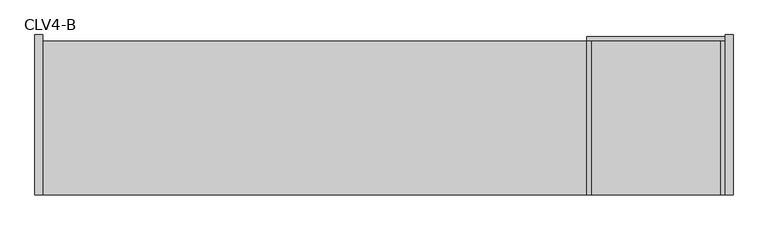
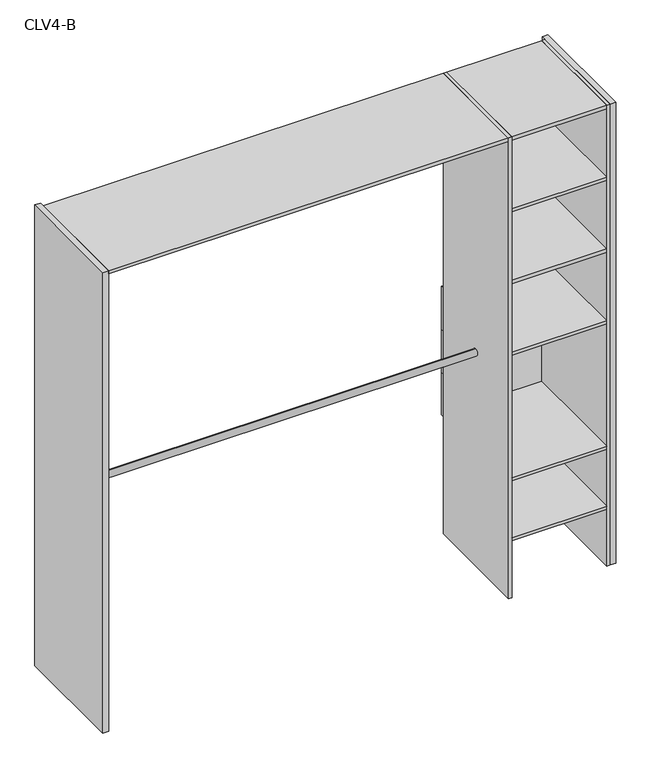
"""IFC4 building model written with IfcOpenShell, lengths in millimetres: furniture geometry, Closet 1estantes-1tubos_2 laterales : CLV4-B."""

from ifc_helpers import new_model, si_unit, point, frame, frame_2d, origin, origin_with_axes, place, context, project, spatial, polyline, circle_curve, trimmed, segment, composite_curve, outline, extrude, source, transform, mapped, element, save


def clv4_b_fcdba09a(model_context):
    return source(origin(), model_context, "Body", "SweptSolid", [
        extrude(outline(polyline([(-1992.7412688, -80.0), (-1992.7412688, -600.0), (-2017.7412688, -600.0), (-2017.7412688, -80.0), (-1992.7412688, -80.0)])), origin_with_axes(), (0.0, 0.0, 1.0), 2150.0),
        extrude(outline(polyline([(250.0, -80.0), (250.0, -600.0), (225.0, -600.0), (225.0, -80.0), (250.0, -80.0)])), origin_with_axes(), (0.0, 0.0, 1.0), 2150.0),
        extrude(outline(polyline([(225.0, -100.0), (225.0, -600.0), (210.0, -600.0), (210.0, -100.0), (225.0, -100.0)])), origin_with_axes(), (0.0, 0.0, 1.0), 2150.0),
        extrude(outline(polyline([(-210.0, -100.0), (-210.0, -600.0), (-225.0, -600.0), (-225.0, -100.0), (-210.0, -100.0)])), origin_with_axes(), (0.0, 0.0, 1.0), 2150.0),
        extrude(outline(polyline([(225.0, -100.0), (-225.0, -100.0), (-225.0, -85.0), (225.0, -85.0), (225.0, -100.0)])), frame((0.0, 0.0, 945.0), z_axis=(0.0, 0.0, 1.0), x_axis=(1.0, 0.0, 0.0)), (0.0, 0.0, 1.0), 200.0),
        extrude(outline(polyline([(225.0, -100.0), (-225.0, -100.0), (-225.0, -85.0), (225.0, -85.0), (225.0, -100.0)])), frame((0.0, 0.0, 745.0), z_axis=(0.0, 0.0, 1.0), x_axis=(1.0, 0.0, 0.0)), (0.0, 0.0, 1.0), 200.0),
        extrude(outline(polyline([(225.0, -100.0), (-225.0, -100.0), (-225.0, -85.0), (225.0, -85.0), (225.0, -100.0)])), frame((0.0, 0.0, 545.0), z_axis=(0.0, 0.0, 1.0), x_axis=(1.0, 0.0, 0.0)), (0.0, 0.0, 1.0), 200.0),
        extrude(outline(polyline([(210.0, -100.0), (210.0, -600.0), (-210.0, -600.0), (-210.0, -100.0), (210.0, -100.0)])), frame((0.0, 0.0, 1130.0), z_axis=(0.0, 0.0, 1.0), x_axis=(1.0, 0.0, 0.0)), (0.0, 0.0, 1.0), 15.0),
        extrude(outline(composite_curve([segment(trimmed(circle_curve(frame_2d((-350.0, 1000.0)), 15.0), [point((-350.0, 1015.0))], [point((-350.0, 985.0))], False, "CARTESIAN"), True, "CONTINUOUS"), segment(trimmed(circle_curve(frame_2d((-350.0, 1000.0)), 15.0), [point((-350.0, 985.0))], [point((-350.0, 1015.0))], False, "CARTESIAN"), True, "CONTINUOUS")], self_intersect=False)), frame((-1992.7412688, 0.0, 0.0), z_axis=(1.0, 0.0, 0.0), x_axis=(0.0, 1.0, 0.0)), (0.0, 0.0, 1.0), 1767.7412688),
        extrude(outline(composite_curve([segment(trimmed(circle_curve(frame_2d((-350.0, 2000.0)), 15.0), [point((-350.0, 2015.0))], [point((-350.0, 1985.0))], False, "CARTESIAN"), True, "CONTINUOUS"), segment(trimmed(circle_curve(frame_2d((-350.0, 2000.0)), 15.0), [point((-350.0, 1985.0))], [point((-350.0, 2015.0))], False, "CARTESIAN"), True, "CONTINUOUS")], self_intersect=False)), frame((-1992.7412688, 0.0, 0.0), z_axis=(1.0, 0.0, 0.0), x_axis=(0.0, 1.0, 0.0)), (0.0, 0.0, 1.0), 1767.7412688),
        extrude(outline(polyline([(210.0, -100.0), (210.0, -600.0), (-210.0, -600.0), (-210.0, -100.0), (210.0, -100.0)])), frame((0.0, 0.0, 265.0), z_axis=(0.0, 0.0, 1.0), x_axis=(1.0, 0.0, 0.0)), (0.0, 0.0, 1.0), 15.0),
        extrude(outline(polyline([(210.0, -100.0), (210.0, -600.0), (-210.0, -600.0), (-210.0, -100.0), (210.0, -100.0)])), frame((0.0, 0.0, 545.0), z_axis=(0.0, 0.0, 1.0), x_axis=(1.0, 0.0, 0.0)), (0.0, 0.0, 1.0), 15.0),
        extrude(outline(polyline([(210.0, -100.0), (210.0, -600.0), (-210.0, -600.0), (-210.0, -100.0), (210.0, -100.0)])), frame((0.0, 0.0, 1465.0), z_axis=(0.0, 0.0, 1.0), x_axis=(1.0, 0.0, 0.0)), (0.0, 0.0, 1.0), 15.0),
        extrude(outline(polyline([(210.0, -100.0), (210.0, -600.0), (-210.0, -600.0), (-210.0, -100.0), (210.0, -100.0)])), frame((0.0, 0.0, 1800.0), z_axis=(0.0, 0.0, 1.0), x_axis=(1.0, 0.0, 0.0)), (0.0, 0.0, 1.0), 15.0),
        extrude(outline(polyline([(-210.0, -100.0), (-210.0, -600.0), (-1992.7412688, -600.0), (-1992.7412688, -100.0), (-210.0, -100.0)])), frame((0.0, 0.0, 2135.0), z_axis=(0.0, 0.0, 1.0), x_axis=(1.0, 0.0, 0.0)), (0.0, 0.0, 1.0), 15.0),
        extrude(outline(polyline([(210.0, -100.0), (210.0, -600.0), (-210.0, -600.0), (-210.0, -100.0), (210.0, -100.0)])), frame((0.0, 0.0, 2135.0), z_axis=(0.0, 0.0, 1.0), x_axis=(1.0, 0.0, 0.0)), (0.0, 0.0, 1.0), 15.0),
    ])


if __name__ == "__main__":
    model = new_model("IFC4")
    model_context = context("Model", 3, world=origin())
    ifc_project = project(units=[si_unit("LENGTHUNIT", "METRE", prefix="MILLI")], contexts=[model_context])
    site = spatial("IfcSite", under=ifc_project)
    building = spatial("IfcBuilding", under=site)
    placement = place(None, origin())
    clv4_b_shape = clv4_b_fcdba09a(model_context)
    element("IfcFurniture", 1, ObjectType="Closet 1estantes-1tubos_2 laterales : CLV4-B", at=placement, inside=building, context=model_context, shape_type="MappedRepresentation", body=[
        mapped(clv4_b_shape, transform((0.0, 0.0, 0.0), x_axis=(1.0, 0.0, 0.0), y_axis=(0.0, 1.0, 0.0), z_axis=(0.0, 0.0, 1.0))),
    ])
    save(model, "model.ifc")
